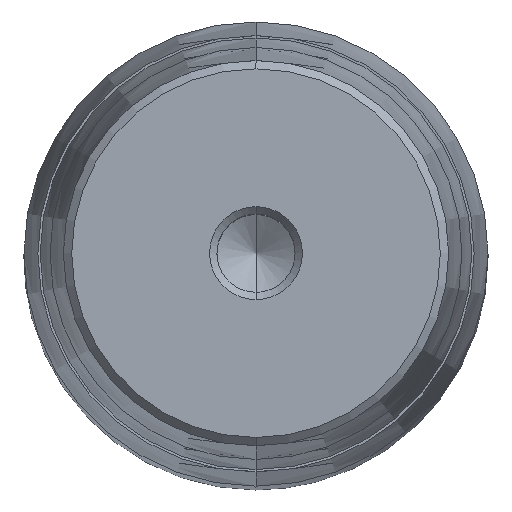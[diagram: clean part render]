
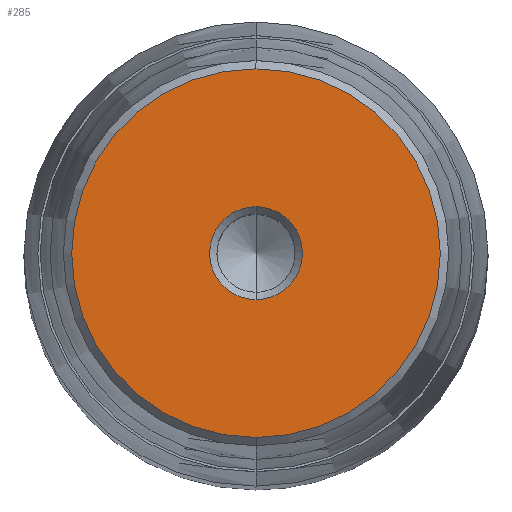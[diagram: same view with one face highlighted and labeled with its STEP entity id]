
A CAD part, top view. The second image highlights one B-rep face of the part: STEP entity #285.
In plain terms, the highlighted planar face has unit normal (0, 0, 1).
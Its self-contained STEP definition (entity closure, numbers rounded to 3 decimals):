
#164=CARTESIAN_POINT('Axis2P3D Location',(0.,0.,69.)) ;
#168=CARTESIAN_POINT('Vertex',(6.,0.,69.)) ;
#170=CARTESIAN_POINT('Vertex',(0.,-6.,69.)) ;
#173=CARTESIAN_POINT('Axis2P3D Location',(0.,0.,69.)) ;
#177=CARTESIAN_POINT('Vertex',(0.,6.,69.)) ;
#228=CARTESIAN_POINT('Axis2P3D Location',(0.,6.,69.)) ;
#233=CARTESIAN_POINT('Axis2P3D Location',(0.,0.,69.)) ;
#237=CARTESIAN_POINT('Vertex',(0.,23.825,69.)) ;
#239=CARTESIAN_POINT('Vertex',(23.825,0.,69.)) ;
#242=CARTESIAN_POINT('Axis2P3D Location',(0.,0.,69.)) ;
#246=CARTESIAN_POINT('Vertex',(-23.825,0.,69.)) ;
#249=CARTESIAN_POINT('Axis2P3D Location',(0.,0.,69.)) ;
#253=CARTESIAN_POINT('Vertex',(0.,-23.825,69.)) ;
#256=CARTESIAN_POINT('Axis2P3D Location',(0.,0.,69.)) ;
#267=CARTESIAN_POINT('Axis2P3D Location',(0.,0.,69.)) ;
#271=CARTESIAN_POINT('Vertex',(-6.,0.,69.)) ;
#274=CARTESIAN_POINT('Axis2P3D Location',(0.,0.,69.)) ;
#165=DIRECTION('Axis2P3D Direction',(-0.,0.,1.)) ;
#174=DIRECTION('Axis2P3D Direction',(-0.,0.,1.)) ;
#229=DIRECTION('Axis2P3D Direction',(0.,0.,-1.)) ;
#230=DIRECTION('Axis2P3D XDirection',(0.,1.,0.)) ;
#234=DIRECTION('Axis2P3D Direction',(0.,0.,-1.)) ;
#243=DIRECTION('Axis2P3D Direction',(0.,0.,-1.)) ;
#250=DIRECTION('Axis2P3D Direction',(0.,0.,-1.)) ;
#257=DIRECTION('Axis2P3D Direction',(0.,0.,-1.)) ;
#268=DIRECTION('Axis2P3D Direction',(0.,0.,-1.)) ;
#275=DIRECTION('Axis2P3D Direction',(0.,0.,-1.)) ;
#166=AXIS2_PLACEMENT_3D('Circle Axis2P3D',#164,#165,$) ;
#175=AXIS2_PLACEMENT_3D('Circle Axis2P3D',#173,#174,$) ;
#231=AXIS2_PLACEMENT_3D('Plane Axis2P3D',#228,#229,#230) ;
#235=AXIS2_PLACEMENT_3D('Circle Axis2P3D',#233,#234,$) ;
#244=AXIS2_PLACEMENT_3D('Circle Axis2P3D',#242,#243,$) ;
#251=AXIS2_PLACEMENT_3D('Circle Axis2P3D',#249,#250,$) ;
#258=AXIS2_PLACEMENT_3D('Circle Axis2P3D',#256,#257,$) ;
#269=AXIS2_PLACEMENT_3D('Circle Axis2P3D',#267,#268,$) ;
#276=AXIS2_PLACEMENT_3D('Circle Axis2P3D',#274,#275,$) ;
#262=ORIENTED_EDGE('',*,*,#241,.F.) ;
#263=ORIENTED_EDGE('',*,*,#248,.F.) ;
#264=ORIENTED_EDGE('',*,*,#255,.F.) ;
#265=ORIENTED_EDGE('',*,*,#260,.F.) ;
#280=ORIENTED_EDGE('',*,*,#172,.T.) ;
#281=ORIENTED_EDGE('',*,*,#273,.T.) ;
#282=ORIENTED_EDGE('',*,*,#278,.T.) ;
#283=ORIENTED_EDGE('',*,*,#179,.T.) ;
#284=FACE_BOUND('',#279,.T.) ;
#285=ADVANCED_FACE('722-60x315x366',(#266,#284),#232,.F.) ;
#167=CIRCLE('generated circle',#166,6.) ;
#176=CIRCLE('generated circle',#175,6.) ;
#236=CIRCLE('generated circle',#235,23.825) ;
#245=CIRCLE('generated circle',#244,23.825) ;
#252=CIRCLE('generated circle',#251,23.825) ;
#259=CIRCLE('generated circle',#258,23.825) ;
#270=CIRCLE('generated circle',#269,6.) ;
#277=CIRCLE('generated circle',#276,6.) ;
#172=EDGE_CURVE('',#169,#171,#167,.F.) ;
#179=EDGE_CURVE('',#178,#169,#176,.F.) ;
#241=EDGE_CURVE('',#238,#240,#236,.T.) ;
#248=EDGE_CURVE('',#247,#238,#245,.T.) ;
#255=EDGE_CURVE('',#254,#247,#252,.T.) ;
#260=EDGE_CURVE('',#240,#254,#259,.T.) ;
#273=EDGE_CURVE('',#171,#272,#270,.T.) ;
#278=EDGE_CURVE('',#272,#178,#277,.T.) ;
#261=EDGE_LOOP('',(#262,#263,#264,#265)) ;
#279=EDGE_LOOP('',(#280,#281,#282,#283)) ;
#266=FACE_OUTER_BOUND('',#261,.T.) ;
#232=PLANE('Plane',#231) ;
#169=VERTEX_POINT('',#168) ;
#171=VERTEX_POINT('',#170) ;
#178=VERTEX_POINT('',#177) ;
#238=VERTEX_POINT('',#237) ;
#240=VERTEX_POINT('',#239) ;
#247=VERTEX_POINT('',#246) ;
#254=VERTEX_POINT('',#253) ;
#272=VERTEX_POINT('',#271) ;
